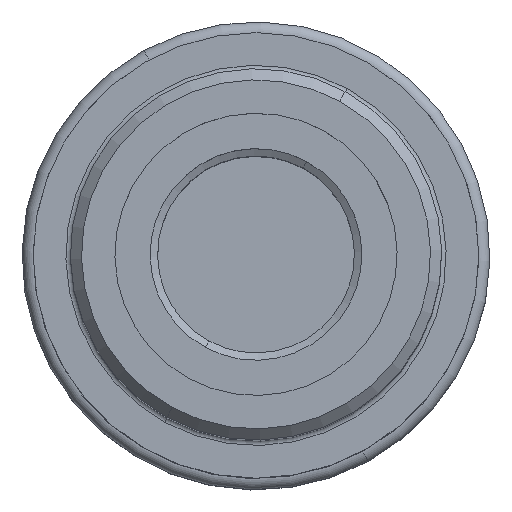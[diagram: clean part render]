
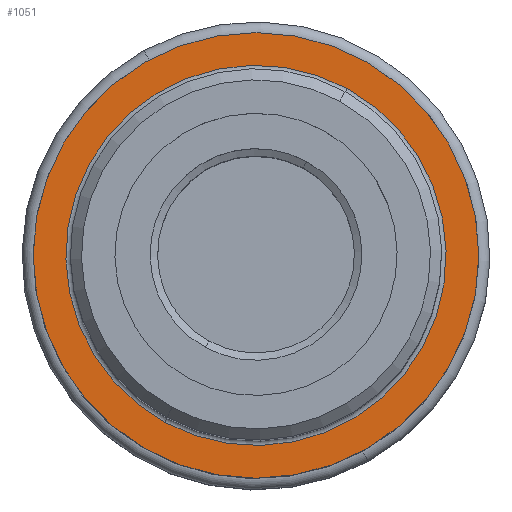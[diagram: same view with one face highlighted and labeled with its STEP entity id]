
A CAD part, top view. The second image highlights one B-rep face of the part: STEP entity #1051.
In plain terms, the highlighted planar face has unit normal (0, 0, 1).
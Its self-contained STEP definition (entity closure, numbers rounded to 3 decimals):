
#995=AXIS2_PLACEMENT_3D('Circle Axis2P3D',#993,#994,$) ;
#1014=AXIS2_PLACEMENT_3D('Circle Axis2P3D',#1012,#1013,$) ;
#1027=AXIS2_PLACEMENT_3D('Plane Axis2P3D',#1024,#1025,#1026) ;
#1035=AXIS2_PLACEMENT_3D('Circle Axis2P3D',#1033,#1034,$) ;
#1044=AXIS2_PLACEMENT_3D('Circle Axis2P3D',#1042,#1043,$) ;
#990=CARTESIAN_POINT('Vertex',(30.,0.,-80.)) ;
#993=CARTESIAN_POINT('Axis2P3D Location',(0.,0.,-80.)) ;
#997=CARTESIAN_POINT('Vertex',(-30.,0.,-80.)) ;
#1012=CARTESIAN_POINT('Axis2P3D Location',(0.,0.,-80.)) ;
#1024=CARTESIAN_POINT('Axis2P3D Location',(0.,25.6,-80.)) ;
#1033=CARTESIAN_POINT('Axis2P3D Location',(0.,0.,-80.)) ;
#1037=CARTESIAN_POINT('Vertex',(-12.273,-22.466,-80.)) ;
#1039=CARTESIAN_POINT('Vertex',(12.273,22.466,-80.)) ;
#1042=CARTESIAN_POINT('Axis2P3D Location',(0.,0.,-80.)) ;
#994=DIRECTION('Axis2P3D Direction',(0.,0.,-1.)) ;
#1013=DIRECTION('Axis2P3D Direction',(0.,0.,-1.)) ;
#1025=DIRECTION('Axis2P3D Direction',(0.,0.,-1.)) ;
#1026=DIRECTION('Axis2P3D XDirection',(1.,0.,0.)) ;
#1034=DIRECTION('Axis2P3D Direction',(0.,0.,-1.)) ;
#1043=DIRECTION('Axis2P3D Direction',(0.,0.,-1.)) ;
#1030=ORIENTED_EDGE('',*,*,#1016,.F.) ;
#1031=ORIENTED_EDGE('',*,*,#999,.F.) ;
#1048=ORIENTED_EDGE('',*,*,#1041,.T.) ;
#1049=ORIENTED_EDGE('',*,*,#1046,.T.) ;
#1050=FACE_BOUND('',#1047,.T.) ;
#1051=ADVANCED_FACE('NOCUT',(#1032,#1050),#1028,.F.) ;
#996=CIRCLE('generated circle',#995,30.) ;
#1015=CIRCLE('generated circle',#1014,30.) ;
#1036=CIRCLE('generated circle',#1035,25.6) ;
#1045=CIRCLE('generated circle',#1044,25.6) ;
#999=EDGE_CURVE('',#991,#998,#996,.T.) ;
#1016=EDGE_CURVE('',#998,#991,#1015,.T.) ;
#1041=EDGE_CURVE('',#1038,#1040,#1036,.T.) ;
#1046=EDGE_CURVE('',#1040,#1038,#1045,.T.) ;
#1029=EDGE_LOOP('',(#1030,#1031)) ;
#1047=EDGE_LOOP('',(#1048,#1049)) ;
#1032=FACE_OUTER_BOUND('',#1029,.T.) ;
#1028=PLANE('',#1027) ;
#991=VERTEX_POINT('',#990) ;
#998=VERTEX_POINT('',#997) ;
#1038=VERTEX_POINT('',#1037) ;
#1040=VERTEX_POINT('',#1039) ;
